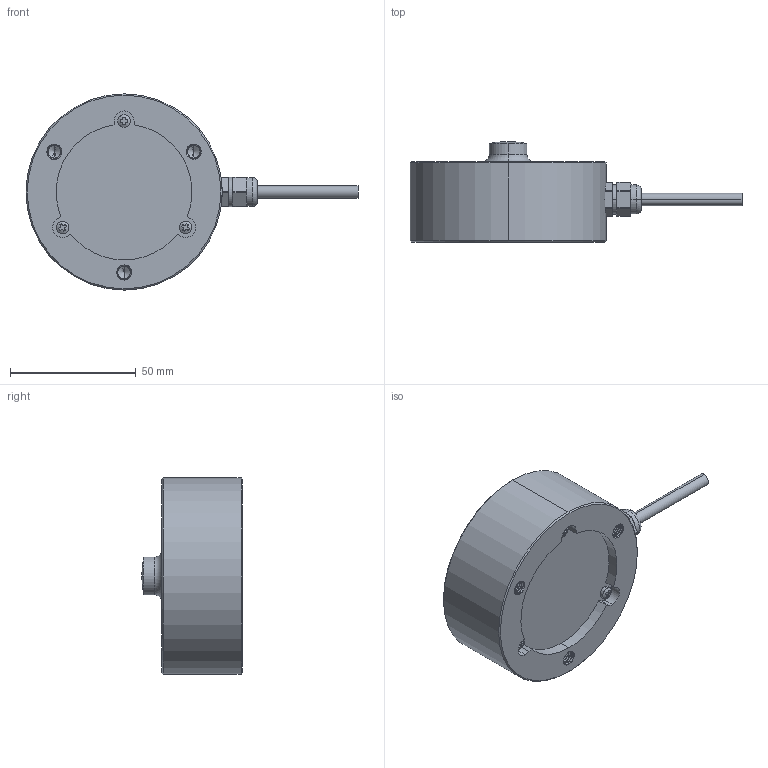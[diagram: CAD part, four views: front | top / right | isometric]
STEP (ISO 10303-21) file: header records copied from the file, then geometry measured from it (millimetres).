
FILE_DESCRIPTION (( 'STEP AP203' ), '1' );
FILE_NAME ('LCB11(3-10kN).STEP', '2024-11-28T08:14:21', ( '' ), ( '' ), 'SwSTEP 2.0', 'SolidWorks 2019', '' );
FILE_SCHEMA (( 'CONFIG_CONTROL_DESIGN' ));
Length unit declared in the file: millimetre
Products named in the file (1): LCB11(3-10kN)
Bounding box: 132 x 40 x 78 mm (x, y, z)
Volume: 144895.3 mm3; surface area: 21220.8 mm2
Topology: 1 solids, 1 shells, 266 faces, 728 edges, 469 vertices
Faces by surface type: cylinder 153, plane 72, cone 19, bspline 9, torus 8, sphere 5
Entity records: 20196 total; most frequent: CARTESIAN_POINT 14093, ORIENTED_EDGE 1432, DIRECTION 1118, EDGE_CURVE 716, VERTEX_POINT 466, AXIS2_PLACEMENT_3D 410, LINE 298, VECTOR 298
